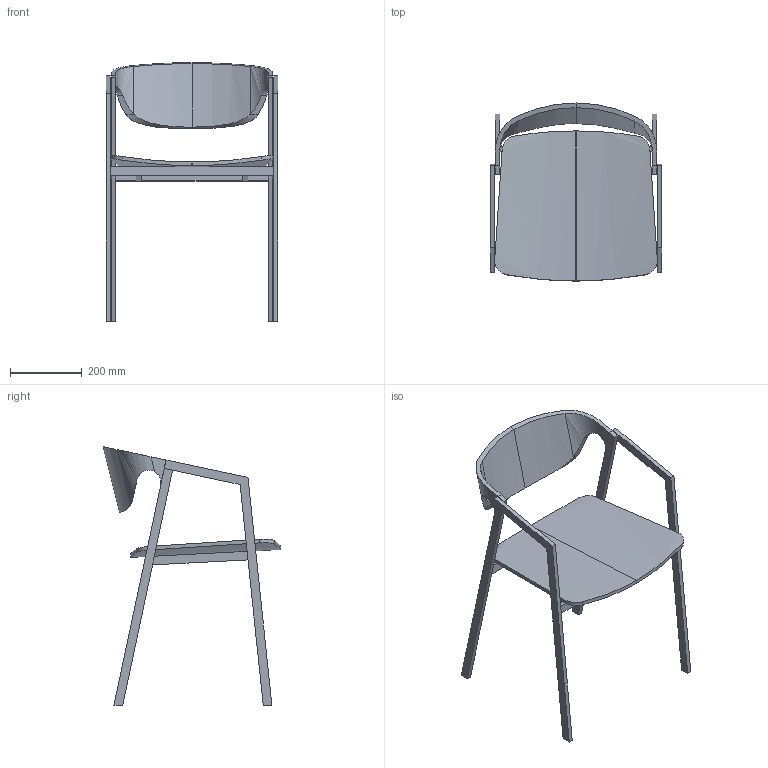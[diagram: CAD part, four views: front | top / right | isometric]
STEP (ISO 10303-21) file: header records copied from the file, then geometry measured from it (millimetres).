
FILE_DESCRIPTION(/* description */ (''),/* implementation_level */ '2;1');
FILE_NAME(/* name */ 'S.A.C. Dining chair',/* time_stamp */ '2019-09-17T08:54:38+02:00',/* author */ (''),/* organization */ (''),/* preprocessor_version */ 'ST-DEVELOPER v15',/* originating_system */ '',/* authorisation */ '');
FILE_SCHEMA (('AUTOMOTIVE_DESIGN'));
Length unit declared in the file: millimetre
Products named in the file (1): Document
Bounding box: 480 x 496.95 x 722.17 mm (x, y, z)
Volume: 4180840.1 mm3; surface area: 913510.5 mm2
Topology: 12 solids, 12 shells, 96 faces, 212 edges, 140 vertices
Faces by surface type: plane 72, bspline 24
Entity records: 4001 total; most frequent: CARTESIAN_POINT 2359, ORIENTED_EDGE 424, EDGE_CURVE 212, B_SPLINE_CURVE_WITH_KNOTS 207, VERTEX_POINT 140, ADVANCED_FACE 96, FACE_OUTER_BOUND 96, EDGE_LOOP 96
